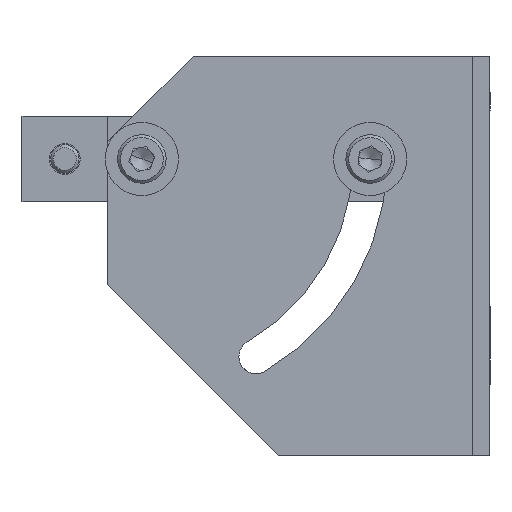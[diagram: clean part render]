
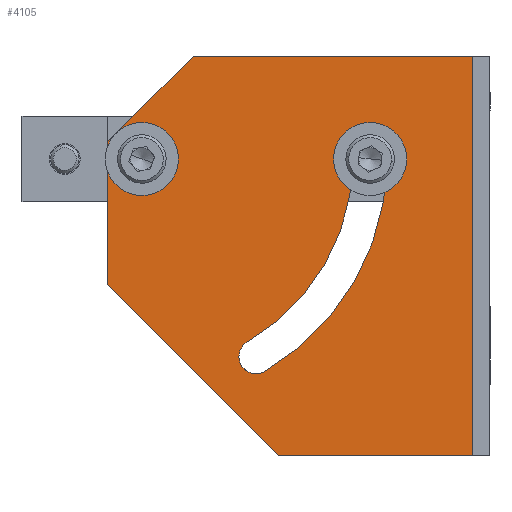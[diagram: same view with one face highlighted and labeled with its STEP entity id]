
A CAD part, left-side view. The second image highlights one B-rep face of the part: STEP entity #4105.
In plain terms, the highlighted planar face has unit normal (-1, 0, 0).
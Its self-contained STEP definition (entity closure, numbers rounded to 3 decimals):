
#16 = DIRECTION ( 'NONE',  ( 0., 1., 0. ) ) ;
#124 = VERTEX_POINT ( 'NONE', #7155 ) ;
#185 = CARTESIAN_POINT ( 'NONE',  ( -29., 20., 0. ) ) ;
#187 = VECTOR ( 'NONE', #9706, 1000. ) ;
#212 = CARTESIAN_POINT ( 'NONE',  ( -29., 3., -37.239 ) ) ;
#293 = DIRECTION ( 'NONE',  ( -1., 0., 0. ) ) ;
#413 = EDGE_LOOP ( 'NONE', ( #4151, #9196 ) ) ;
#692 = LINE ( 'NONE', #1592, #2348 ) ;
#903 = CARTESIAN_POINT ( 'NONE',  ( -29., 0.75, -38.538 ) ) ;
#995 = DIRECTION ( 'NONE',  ( 0., -1., 0. ) ) ;
#1084 = CARTESIAN_POINT ( 'NONE',  ( -29., 26., -22. ) ) ;
#1389 = DIRECTION ( 'NONE',  ( 1., 0., 0. ) ) ;
#1452 = DIRECTION ( 'NONE',  ( 0., -1., 0. ) ) ;
#1503 = CARTESIAN_POINT ( 'NONE',  ( -29., 11., 18. ) ) ;
#1516 = CARTESIAN_POINT ( 'NONE',  ( -29., 20., 0. ) ) ;
#1592 = CARTESIAN_POINT ( 'NONE',  ( -29., -6., 18. ) ) ;
#1642 = AXIS2_PLACEMENT_3D ( 'NONE', #2787, #1389, #1452 ) ;
#1670 = AXIS2_PLACEMENT_3D ( 'NONE', #7871, #6245, #6135 ) ;
#1770 = ORIENTED_EDGE ( 'NONE', *, *, #9800, .T. ) ;
#1856 = CARTESIAN_POINT ( 'NONE',  ( -29., 26., -17. ) ) ;
#1859 = LINE ( 'NONE', #1856, #10269 ) ;
#1866 = AXIS2_PLACEMENT_3D ( 'NONE', #6131, #293, #8370 ) ;
#1963 = AXIS2_PLACEMENT_3D ( 'NONE', #2762, #8466, #3594 ) ;
#2015 = CIRCLE ( 'NONE', #8075, 43. ) ;
#2019 = AXIS2_PLACEMENT_3D ( 'NONE', #1516, #7265, #2349 ) ;
#2183 = VERTEX_POINT ( 'NONE', #2873 ) ;
#2205 = ORIENTED_EDGE ( 'NONE', *, *, #7873, .T. ) ;
#2226 = CIRCLE ( 'NONE', #1963, 3. ) ;
#2328 = DIRECTION ( 'NONE',  ( 0., 0.707, -0.707 ) ) ;
#2348 = VECTOR ( 'NONE', #16, 1000. ) ;
#2349 = DIRECTION ( 'NONE',  ( 0., -1., 0. ) ) ;
#2417 = DIRECTION ( 'NONE',  ( 1., 0., 0. ) ) ;
#2748 = VERTEX_POINT ( 'NONE', #8183 ) ;
#2762 = CARTESIAN_POINT ( 'NONE',  ( -29., -20., 0. ) ) ;
#2787 = CARTESIAN_POINT ( 'NONE',  ( -29., 0., -34.641 ) ) ;
#2800 = VERTEX_POINT ( 'NONE', #3580 ) ;
#2873 = CARTESIAN_POINT ( 'NONE',  ( -29., 26., 3. ) ) ;
#2963 = ORIENTED_EDGE ( 'NONE', *, *, #7002, .T. ) ;
#3212 = CARTESIAN_POINT ( 'NONE',  ( -29., 11., 18. ) ) ;
#3300 = EDGE_CURVE ( 'NONE', #9797, #6025, #2015, .T. ) ;
#3338 = CARTESIAN_POINT ( 'NONE',  ( -29., 17.3, 0. ) ) ;
#3426 = EDGE_CURVE ( 'NONE', #2748, #3493, #5880, .T. ) ;
#3446 = CARTESIAN_POINT ( 'NONE',  ( -29., -23., 0. ) ) ;
#3451 = ORIENTED_EDGE ( 'NONE', *, *, #3426, .T. ) ;
#3493 = VERTEX_POINT ( 'NONE', #4466 ) ;
#3580 = CARTESIAN_POINT ( 'NONE',  ( -29., -17., 0. ) ) ;
#3594 = DIRECTION ( 'NONE',  ( 0., -1., 0. ) ) ;
#3726 = CIRCLE ( 'NONE', #3805, 2.7 ) ;
#3805 = AXIS2_PLACEMENT_3D ( 'NONE', #185, #5907, #995 ) ;
#3867 = VECTOR ( 'NONE', #2328, 1000. ) ;
#3995 = ORIENTED_EDGE ( 'NONE', *, *, #10469, .T. ) ;
#4005 = VERTEX_POINT ( 'NONE', #3338 ) ;
#4064 = CARTESIAN_POINT ( 'NONE',  ( -29., -38., -17. ) ) ;
#4077 = ORIENTED_EDGE ( 'NONE', *, *, #3300, .T. ) ;
#4105 = ADVANCED_FACE ( 'NONE', ( #10351, #7462, #9584 ), #4303, .T. ) ;
#4151 = ORIENTED_EDGE ( 'NONE', *, *, #9188, .T. ) ;
#4303 = PLANE ( 'NONE',  #1866 ) ;
#4466 = CARTESIAN_POINT ( 'NONE',  ( -29., 1.5, -32.043 ) ) ;
#4564 = LINE ( 'NONE', #4064, #187 ) ;
#4674 = LINE ( 'NONE', #1503, #3867 ) ;
#4848 = EDGE_CURVE ( 'NONE', #5831, #4005, #6294, .T. ) ;
#5378 = EDGE_CURVE ( 'NONE', #2800, #9797, #2226, .T. ) ;
#5557 = EDGE_LOOP ( 'NONE', ( #7920, #4077, #1770, #3451, #3995 ) ) ;
#5604 = ORIENTED_EDGE ( 'NONE', *, *, #5818, .F. ) ;
#5669 = VERTEX_POINT ( 'NONE', #10356 ) ;
#5818 = EDGE_CURVE ( 'NONE', #124, #10001, #4564, .T. ) ;
#5831 = VERTEX_POINT ( 'NONE', #8939 ) ;
#5880 = CIRCLE ( 'NONE', #1642, 3. ) ;
#5907 = DIRECTION ( 'NONE',  ( 1., 0., 0. ) ) ;
#5932 = CARTESIAN_POINT ( 'NONE',  ( -29., 3., -34.641 ) ) ;
#5936 = LINE ( 'NONE', #1084, #9945 ) ;
#6025 = VERTEX_POINT ( 'NONE', #7055 ) ;
#6131 = CARTESIAN_POINT ( 'NONE',  ( -29., -38., 18. ) ) ;
#6135 = DIRECTION ( 'NONE',  ( 0., -1., 0. ) ) ;
#6245 = DIRECTION ( 'NONE',  ( 1., 0., 0. ) ) ;
#6294 = CIRCLE ( 'NONE', #1670, 2.7 ) ;
#6365 = LINE ( 'NONE', #7826, #8224 ) ;
#6547 = EDGE_CURVE ( 'NONE', #2183, #10160, #1859, .T. ) ;
#6656 = ORIENTED_EDGE ( 'NONE', *, *, #6547, .T. ) ;
#6751 = EDGE_CURVE ( 'NONE', #10001, #5669, #6365, .T. ) ;
#6800 = DIRECTION ( 'NONE',  ( 0., 0., -1. ) ) ;
#6918 =( BOUNDED_CURVE ( )  B_SPLINE_CURVE ( 3, ( #9122, #903, #212, #5932 ),
 .UNSPECIFIED., .F., .F. ) 
 B_SPLINE_CURVE_WITH_KNOTS ( ( 4, 4 ),
 ( 0., 0.006 ),
 .UNSPECIFIED. ) 
 CURVE ( )  GEOMETRIC_REPRESENTATION_ITEM ( )  RATIONAL_B_SPLINE_CURVE ( ( 1., 0.667, 0.667, 1. ) ) 
 REPRESENTATION_ITEM ( '' )  );
#7002 = EDGE_CURVE ( 'NONE', #124, #10156, #692, .T. ) ;
#7055 = CARTESIAN_POINT ( 'NONE',  ( -29., -1.5, -37.239 ) ) ;
#7155 = CARTESIAN_POINT ( 'NONE',  ( -29., -38., 18. ) ) ;
#7265 = DIRECTION ( 'NONE',  ( -1., 0., 0. ) ) ;
#7462 = FACE_BOUND ( 'NONE', #413, .T. ) ;
#7561 = CIRCLE ( 'NONE', #2019, 37. ) ;
#7826 = CARTESIAN_POINT ( 'NONE',  ( -29., -22.5, -52. ) ) ;
#7871 = CARTESIAN_POINT ( 'NONE',  ( -29., 20., 0. ) ) ;
#7873 = EDGE_CURVE ( 'NONE', #10156, #2183, #4674, .T. ) ;
#7920 = ORIENTED_EDGE ( 'NONE', *, *, #5378, .T. ) ;
#8075 = AXIS2_PLACEMENT_3D ( 'NONE', #8861, #2417, #9669 ) ;
#8183 = CARTESIAN_POINT ( 'NONE',  ( -29., 3., -34.641 ) ) ;
#8224 = VECTOR ( 'NONE', #8644, 1000. ) ;
#8370 = DIRECTION ( 'NONE',  ( 0., 1., 0. ) ) ;
#8466 = DIRECTION ( 'NONE',  ( 1., 0., 0. ) ) ;
#8528 = ORIENTED_EDGE ( 'NONE', *, *, #6751, .F. ) ;
#8644 = DIRECTION ( 'NONE',  ( 0., 1., 0. ) ) ;
#8854 = EDGE_CURVE ( 'NONE', #10160, #5669, #5936, .T. ) ;
#8861 = CARTESIAN_POINT ( 'NONE',  ( -29., 20., 0. ) ) ;
#8866 = CARTESIAN_POINT ( 'NONE',  ( -29., 26., -22. ) ) ;
#8939 = CARTESIAN_POINT ( 'NONE',  ( -29., 22.7, 0. ) ) ;
#9008 = EDGE_LOOP ( 'NONE', ( #2205, #6656, #10331, #8528, #5604, #2963 ) ) ;
#9122 = CARTESIAN_POINT ( 'NONE',  ( -29., -1.5, -37.239 ) ) ;
#9188 = EDGE_CURVE ( 'NONE', #4005, #5831, #3726, .T. ) ;
#9196 = ORIENTED_EDGE ( 'NONE', *, *, #4848, .T. ) ;
#9584 = FACE_OUTER_BOUND ( 'NONE', #9008, .T. ) ;
#9669 = DIRECTION ( 'NONE',  ( 0., -1., 0. ) ) ;
#9706 = DIRECTION ( 'NONE',  ( 0., 0., -1. ) ) ;
#9797 = VERTEX_POINT ( 'NONE', #3446 ) ;
#9800 = EDGE_CURVE ( 'NONE', #6025, #2748, #6918, .T. ) ;
#9945 = VECTOR ( 'NONE', #9978, 1000. ) ;
#9978 = DIRECTION ( 'NONE',  ( 0., -0.707, -0.707 ) ) ;
#10001 = VERTEX_POINT ( 'NONE', #10319 ) ;
#10156 = VERTEX_POINT ( 'NONE', #3212 ) ;
#10160 = VERTEX_POINT ( 'NONE', #8866 ) ;
#10269 = VECTOR ( 'NONE', #6800, 1000. ) ;
#10319 = CARTESIAN_POINT ( 'NONE',  ( -29., -38., -52. ) ) ;
#10331 = ORIENTED_EDGE ( 'NONE', *, *, #8854, .T. ) ;
#10351 = FACE_BOUND ( 'NONE', #5557, .T. ) ;
#10356 = CARTESIAN_POINT ( 'NONE',  ( -29., -4., -52. ) ) ;
#10469 = EDGE_CURVE ( 'NONE', #3493, #2800, #7561, .T. ) ;
